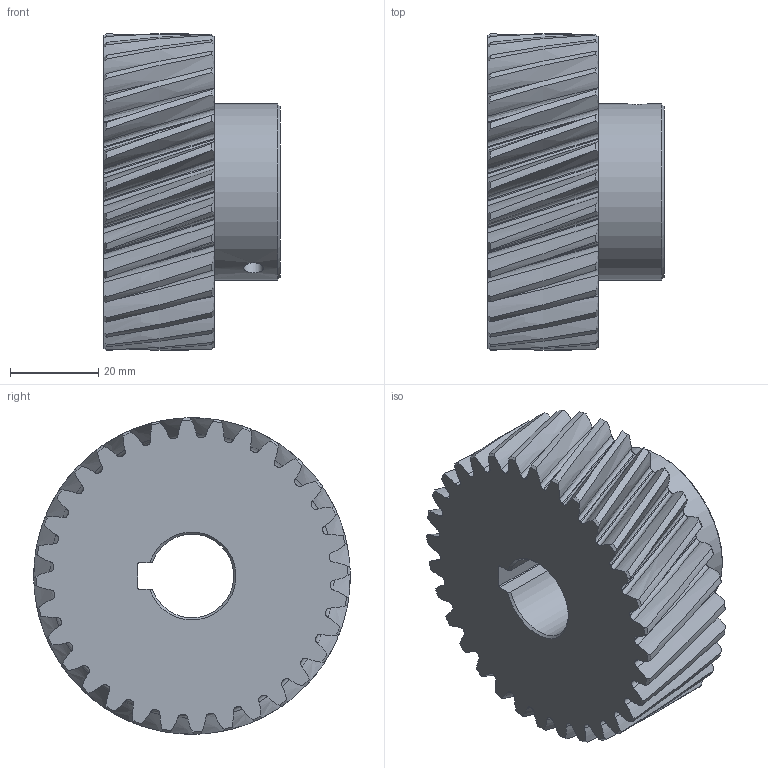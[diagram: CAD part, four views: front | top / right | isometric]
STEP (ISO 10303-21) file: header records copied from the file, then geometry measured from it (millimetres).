
FILE_DESCRIPTION(('STEP AP214'), '1');
FILE_NAME('GH2-T32D19 - Øåñòåðíÿ', '2018-02-16T11:34:50', (''), (''), 'ASCON STEP Converter 1.3', 'ASCON Math Kernel', '');
FILE_SCHEMA(('AUTOMOTIVE_DESIGN { 1 0 10303 214 3 1 1}'));
Length unit declared in the file: millimetre
Products named in the file (1): GH2-T32D19
Bounding box: 40 x 71.9 x 71.9 mm (x, y, z)
Volume: 96335.2 mm3; surface area: 21581.8 mm2
Topology: 1 solids, 1 shells, 271 faces, 804 edges, 537 vertices
Faces by surface type: bspline 128, cylinder 70, cone 67, plane 6
Full cylindrical faces by diameter (mm): 4.458 x2, 40 x1
Entity records: 19616 total; most frequent: CARTESIAN_POINT 11362, ORIENTED_EDGE 1598, EDGE_CURVE 799, DIRECTION 708, B_SPLINE_CURVE_WITH_KNOTS 584, VERTEX_POINT 535, AXIS2_PLACEMENT_3D 348, EDGE_LOOP 282
